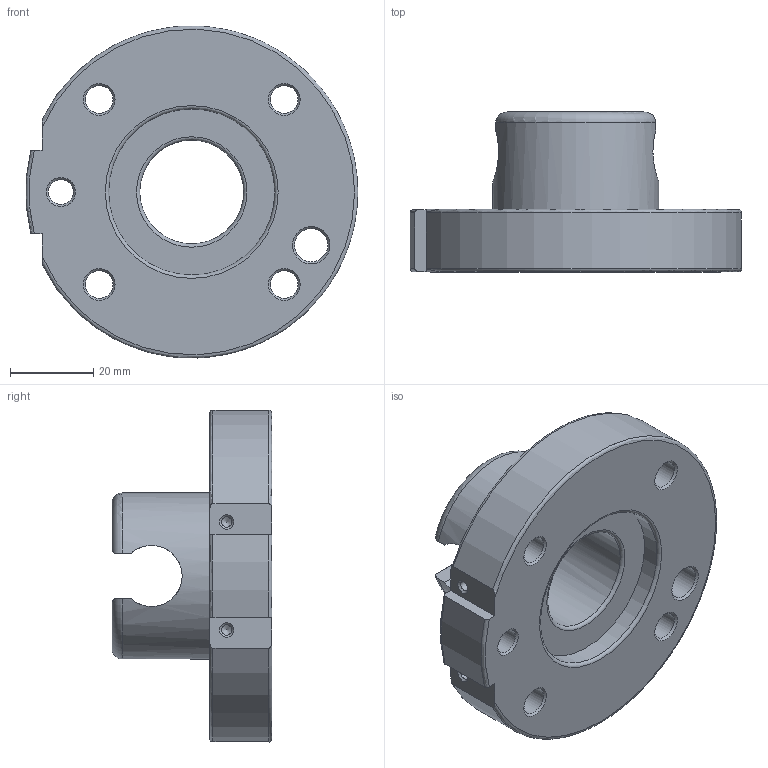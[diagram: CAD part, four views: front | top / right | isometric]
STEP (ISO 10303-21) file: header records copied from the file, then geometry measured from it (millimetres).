
FILE_DESCRIPTION(/* description */ ('G-SHW080-Unterteil'),/* implementation_level */ '2;1');
FILE_NAME(/* name */ '\\dc01\Daten\CAD\Standard\Daten\3D-Datenbank\SHW\4 - 3D-CAD-Daten SHW\SHW080\step-Daten\G-SHW080-2UE Vereinfachung.stp',/* time_stamp */ '2020-05-18T16:35:25+02:00',/* author */ ('GRIP'),/* organization */ (''),/* preprocessor_version */ 'ST-DEVELOPER v17',/* originating_system */ 'Autodesk Inventor 2018',/* authorisation */ '');
FILE_SCHEMA (('AUTOMOTIVE_DESIGN { 1 0 10303 214 3 1 1 }'));
Length unit declared in the file: millimetre
Products named in the file (1): G-SHW080-2UE
Bounding box: 79.85 x 38.5 x 79.93 mm (x, y, z)
Volume: 73479 mm3; surface area: 20267.5 mm2
Topology: 1 solids, 1 shells, 66 faces, 181 edges, 122 vertices
Faces by surface type: plane 21, cylinder 19, cone 16, torus 10
Full cylindrical faces by diameter (mm): 2.459 x2, 6 x1, 6.647 x4, 8 x1, 11 x4, 25 x1, 40 x2
Entity records: 2452 total; most frequent: CARTESIAN_POINT 676, DIRECTION 371, ORIENTED_EDGE 358, EDGE_CURVE 179, AXIS2_PLACEMENT_3D 153, VERTEX_POINT 122, EDGE_LOOP 87, CIRCLE 86
